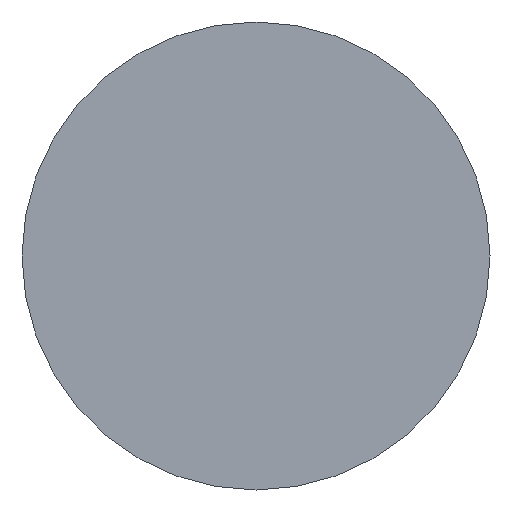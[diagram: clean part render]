
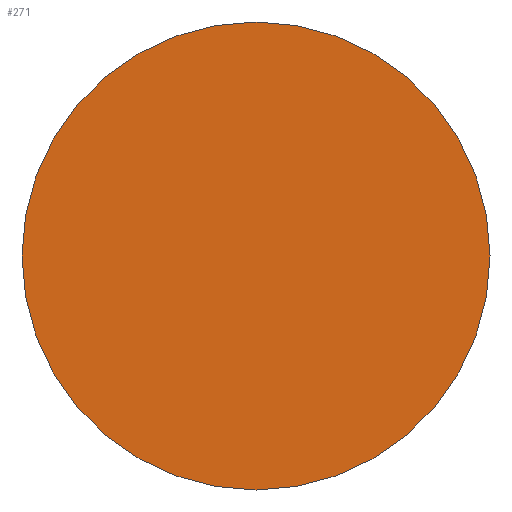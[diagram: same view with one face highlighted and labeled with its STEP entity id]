
A CAD part, left-side view. The second image highlights one B-rep face of the part: STEP entity #271.
In plain terms, the highlighted planar face has unit normal (-1, 0, 0).
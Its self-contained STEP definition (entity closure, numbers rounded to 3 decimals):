
#1 = CARTESIAN_POINT ( 'NONE',  ( 0., 0., 0. ) ) ;
#16 = FACE_OUTER_BOUND ( 'NONE', #217, .T. ) ;
#29 = EDGE_CURVE ( 'NONE', #120, #211, #69, .T. ) ;
#39 = PLANE ( 'NONE',  #49 ) ;
#46 = CIRCLE ( 'NONE', #214, 6. ) ;
#49 = AXIS2_PLACEMENT_3D ( 'NONE', #99, #109, #168 ) ;
#55 = EDGE_CURVE ( 'NONE', #211, #120, #46, .T. ) ;
#69 = CIRCLE ( 'NONE', #218, 6. ) ;
#71 = CARTESIAN_POINT ( 'NONE',  ( 0., -6., 0. ) ) ;
#98 = DIRECTION ( 'NONE',  ( 0., 1., 0. ) ) ;
#99 = CARTESIAN_POINT ( 'NONE',  ( 0., 0., 0. ) ) ;
#109 = DIRECTION ( 'NONE',  ( -1., 0., 0. ) ) ;
#118 = DIRECTION ( 'NONE',  ( 1., 0., 0. ) ) ;
#120 = VERTEX_POINT ( 'NONE', #207 ) ;
#145 = DIRECTION ( 'NONE',  ( 0., 1., 0. ) ) ;
#148 = ORIENTED_EDGE ( 'NONE', *, *, #29, .F. ) ;
#168 = DIRECTION ( 'NONE',  ( 0., -1., 0. ) ) ;
#170 = ORIENTED_EDGE ( 'NONE', *, *, #55, .F. ) ;
#207 = CARTESIAN_POINT ( 'NONE',  ( 0., 6., 0. ) ) ;
#211 = VERTEX_POINT ( 'NONE', #71 ) ;
#214 = AXIS2_PLACEMENT_3D ( 'NONE', #225, #248, #98 ) ;
#217 = EDGE_LOOP ( 'NONE', ( #148, #170 ) ) ;
#218 = AXIS2_PLACEMENT_3D ( 'NONE', #1, #118, #145 ) ;
#225 = CARTESIAN_POINT ( 'NONE',  ( 0., 0., 0. ) ) ;
#248 = DIRECTION ( 'NONE',  ( 1., 0., 0. ) ) ;
#271 = ADVANCED_FACE ( 'NONE', ( #16 ), #39, .T. ) ;
